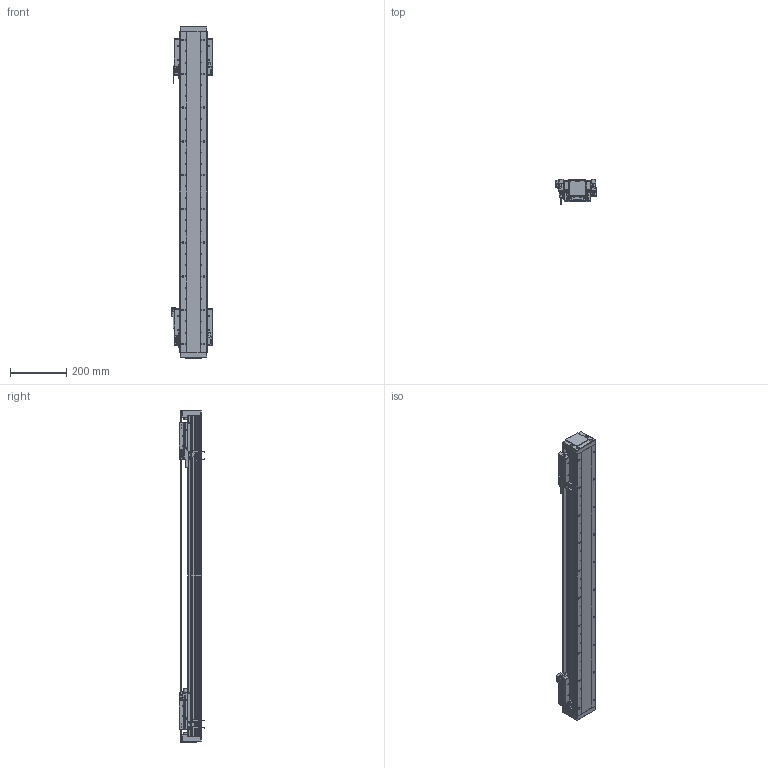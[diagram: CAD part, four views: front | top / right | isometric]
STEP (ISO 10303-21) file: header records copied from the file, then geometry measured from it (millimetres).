
FILE_DESCRIPTION (( 'STEP AP203' ), '1' );
FILE_NAME ('DA-B95-2-B15-T800-C010-0.2 直线电机.STEP', '2023-05-06T06:26:44', ( '微软用户' ), ( '微软中国' ), 'SwSTEP 2.0', 'SolidWorks 2019', '' );
FILE_SCHEMA (( 'CONFIG_CONTROL_DESIGN' ));
Length unit declared in the file: millimetre
Products named in the file (32): DA95-DG-H-01^DA-A95-B15-T-C010-0.2-N 眻盄萇儂; IU-BU95-L-00 菁釱_L1140; 葩璃 DA95-GT-T-00^IU-BU95-L 菁釱絳寢_DA95; 复件 DA95-MFP-01 密封片^66245-BU95-V 滚珠滑台; ｸｴｼ DA95-Txxx-002-00 ｸﾇｰ蘓DA-A95-B15-T-C010-0.2-N ﾖｱﾏﾟｵ扈銈T+30; 葩璃 BKMA01-W060-TRL^DA-A95-B15-T-C010-0.2-N 眻盄萇儂; 复件 DKW-GYP-ZJ-00 中间光电感应片^DA-A95-B15-T-C010-0.2-N 直线电机; 复件 66245-BU95-HT-V-01 滑动台板^66245-BU95-V-00 一体化滑动台板; 66245-BU95-V 幗紩賑怢; 复件 DA95-DK-00 挡块^66245-BU95-V 滚珠滑台; DA-A95-GYP-00 光电感应片^DA-A95-B15-T-C010-0.2-N 直线电机; IU-BU95-L 菁釱絳寢; 葩璃 DA95-B15-DP-A-00 菜えA^66245-BU95-V 幗紩賑怢; 复件 纯铜油杯 6x6mm^66245-BU95-V 滚珠滑台; 复件 DA95-HK-GT-00 滑块钢轨^66245-BU95-V-00 一体化滑动台板; PM-T45 光电开关^DA-A95-B15-T-C010-0.2-N 直线电机; 复件 DA95-B15-YB-A-00 压板A^66245-BU95-V 滚珠滑台; 复件 六角薄螺母 M3^DA-A95-B15-T-C010-0.2-N 直线电机_GB_FASTENER_NUT_STNAB M3-C; 复件 DKW-KGZ-ZJ-00 中间光电开关支架^DA-A95-B15-T-C010-0.2-N 直线电机; DA-B95-2-B15-T800-C010-0.2 眻盄萇儂; B15 XD-U-02L ｴﾅﾕ､ｳﾟ^DA-A95-B15-T-C010-0.2-N ﾖｱﾏﾟｵ扈銈XD-U-02L; 复件 DKW-HXJ-JY-00 缓冲橡胶^DA-A95-B15-T-C010-0.2-N 直线电机; 葩璃 PM-Y45^DA-A95-B15-T-C010-0.2-N 眻盄萇儂; 复件 DA95-DB-00  挡板^66245-BU95-V 滚珠滑台; LMDK-2-R001-V5-L02-C1-F00，0.2M 读数头^DA-A95-B15-T-C010-0.2-N 直线电机_DMA-010-0.2; DA95-HXJ-00 缓冲橡胶^DA-A95-B15-T-C010-0.2-N 直线电机; 葩璃 BKM015-W060-C1-TP-DA-0.2^DA-A95-B15-T-C010-0.2-N 眻盄萇儂; 复件 DA95-B15-YB-B-00 压板B^66245-BU95-V 滚珠滑台; 66245-BU95-V-00 珨极趙賑雄怢啣; 葩璃 DA95-B15-DP--B-00 菜えB^66245-BU95-V 幗紩賑怢
Assembly tree (76 placements, depth 4):
  DA-B95-2-B15-T800-C010-0.2 眻盄萇儂
    IU-BU95-L 菁釱絳寢
      IU-BU95-L-00 菁釱_L1140
      葩璃 DA95-GT-T-00^IU-BU95-L 菁釱絳寢_DA95  x2
    66245-BU95-V 幗紩賑怢
      66245-BU95-V-00 珨极趙賑雄怢啣
        复件 66245-BU95-HT-V-01 滑动台板^66245-BU95-V-00 一体化滑动台板
        复件 DA95-HK-GT-00 滑块钢轨^66245-BU95-V-00 一体化滑动台板  x2
      葩璃 DA95-B15-DP-A-00 菜えA^66245-BU95-V 幗紩賑怢
      复件 DA95-B15-YB-A-00 压板A^66245-BU95-V 滚珠滑台
      复件 DA95-B15-YB-B-00 压板B^66245-BU95-V 滚珠滑台
      复件 DA95-DB-00  挡板^66245-BU95-V 滚珠滑台  x4
      复件 DA95-DK-00 挡块^66245-BU95-V 滚珠滑台  x2
      复件 DA95-MFP-01 密封片^66245-BU95-V 滚珠滑台  x4
      复件 纯铜油杯 6x6mm^66245-BU95-V 滚珠滑台  x2
      葩璃 DA95-B15-DP--B-00 菜えB^66245-BU95-V 幗紩賑怢
    66245-BU95-V 幗紩賑怢
      66245-BU95-V-00 珨极趙賑雄怢啣
        复件 66245-BU95-HT-V-01 滑动台板^66245-BU95-V-00 一体化滑动台板
        复件 DA95-HK-GT-00 滑块钢轨^66245-BU95-V-00 一体化滑动台板  x2
      葩璃 DA95-B15-DP-A-00 菜えA^66245-BU95-V 幗紩賑怢
      复件 DA95-B15-YB-A-00 压板A^66245-BU95-V 滚珠滑台
      复件 DA95-B15-YB-B-00 压板B^66245-BU95-V 滚珠滑台
      复件 DA95-DB-00  挡板^66245-BU95-V 滚珠滑台  x4
      复件 DA95-DK-00 挡块^66245-BU95-V 滚珠滑台  x2
      复件 DA95-MFP-01 密封片^66245-BU95-V 滚珠滑台  x4
      复件 纯铜油杯 6x6mm^66245-BU95-V 滚珠滑台  x2
      葩璃 DA95-B15-DP--B-00 菜えB^66245-BU95-V 幗紩賑怢
    DA-A95-GYP-00 光电感应片^DA-A95-B15-T-C010-0.2-N 直线电机  x2
    LMDK-2-R001-V5-L02-C1-F00，0.2M 读数头^DA-A95-B15-T-C010-0.2-N 直线电机_DMA-010-0.2  x2
    复件 DKW-KGZ-ZJ-00 中间光电开关支架^DA-A95-B15-T-C010-0.2-N 直线电机
    葩璃 PM-Y45^DA-A95-B15-T-C010-0.2-N 眻盄萇儂
    复件 DKW-GYP-ZJ-00 中间光电感应片^DA-A95-B15-T-C010-0.2-N 直线电机
    葩璃 BKM015-W060-C1-TP-DA-0.2^DA-A95-B15-T-C010-0.2-N 眻盄萇儂  x2
    复件 DKW-HXJ-JY-00 缓冲橡胶^DA-A95-B15-T-C010-0.2-N 直线电机  x2
    PM-T45 光电开关^DA-A95-B15-T-C010-0.2-N 直线电机  x4
    B15 XD-U-02L ｴﾅﾕ､ｳﾟ^DA-A95-B15-T-C010-0.2-N ﾖｱﾏﾟｵ扈銈XD-U-02L
    DA95-DG-H-01^DA-A95-B15-T-C010-0.2-N 眻盄萇儂  x2
    ｸｴｼ DA95-Txxx-002-00 ｸﾇｰ蘓DA-A95-B15-T-C010-0.2-N ﾖｱﾏﾟｵ扈銈T+30
    DA95-HXJ-00 缓冲橡胶^DA-A95-B15-T-C010-0.2-N 直线电机  x4
    葩璃 BKMA01-W060-TRL^DA-A95-B15-T-C010-0.2-N 眻盄萇儂
    复件 六角薄螺母 M3^DA-A95-B15-T-C010-0.2-N 直线电机_GB_FASTENER_NUT_STNAB M3-C  x6
Bounding box: 145.4 x 90.2 x 1180 mm (x, y, z)
Volume: 4818013.2 mm3; surface area: 1475688.6 mm2
Topology: 71 solids, 89 shells, 4342 faces, 11320 edges, 6989 vertices
Faces by surface type: cylinder 1900, plane 1490, cone 544, bspline 344, torus 60, sphere 4
Entity records: 89043 total; most frequent: CARTESIAN_POINT 25142, ORIENTED_EDGE 12578, DIRECTION 12257, EDGE_CURVE 6289, AXIS2_PLACEMENT_3D 4591, VERTEX_POINT 4004, VECTOR 3075, LINE 3075
